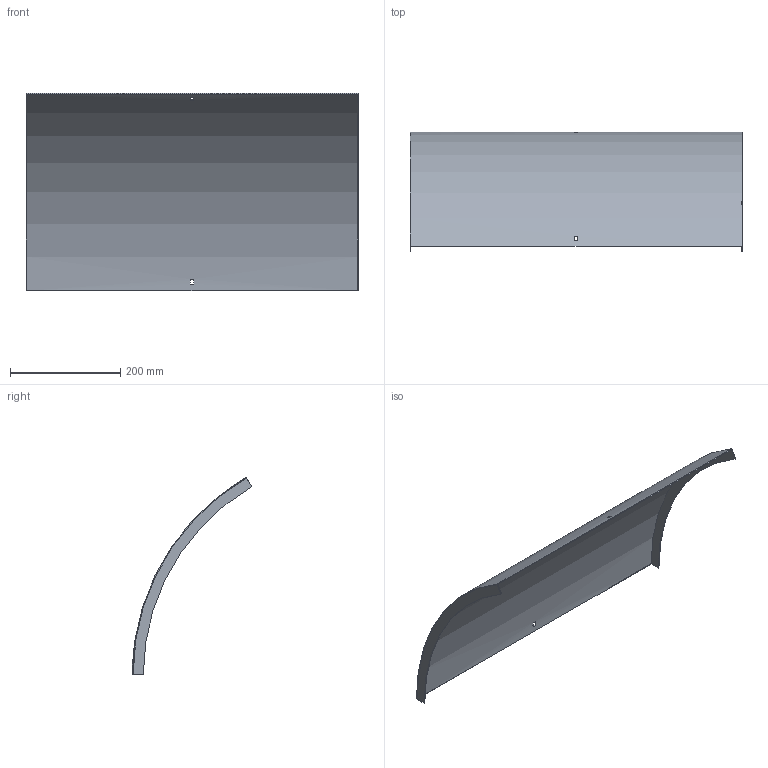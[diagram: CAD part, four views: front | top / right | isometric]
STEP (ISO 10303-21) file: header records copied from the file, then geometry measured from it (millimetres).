
FILE_DESCRIPTION (( 'STEP AP214' ), '1' );
FILE_NAME ('B2_41N3J600.step', '2025-02-21T10:42:22', ( '' ), ( '' ), 'SwSTEP 2.0', 'SolidWorks 2023', '' );
FILE_SCHEMA (( 'AUTOMOTIVE_DESIGN' ));
Length unit declared in the file: millimetre
Products named in the file (1): B2_41N3J600
Bounding box: 603 x 217 x 358.53 mm (x, y, z)
Volume: 414687.4 mm3; surface area: 556169.7 mm2
Topology: 1 solids, 1 shells, 18 faces, 48 edges, 32 vertices
Faces by surface type: plane 14, cylinder 4
Entity records: 599 total; most frequent: DIRECTION 102, CARTESIAN_POINT 99, ORIENTED_EDGE 96, EDGE_CURVE 48, AXIS2_PLACEMENT_3D 35, LINE 32, VECTOR 32, VERTEX_POINT 32
